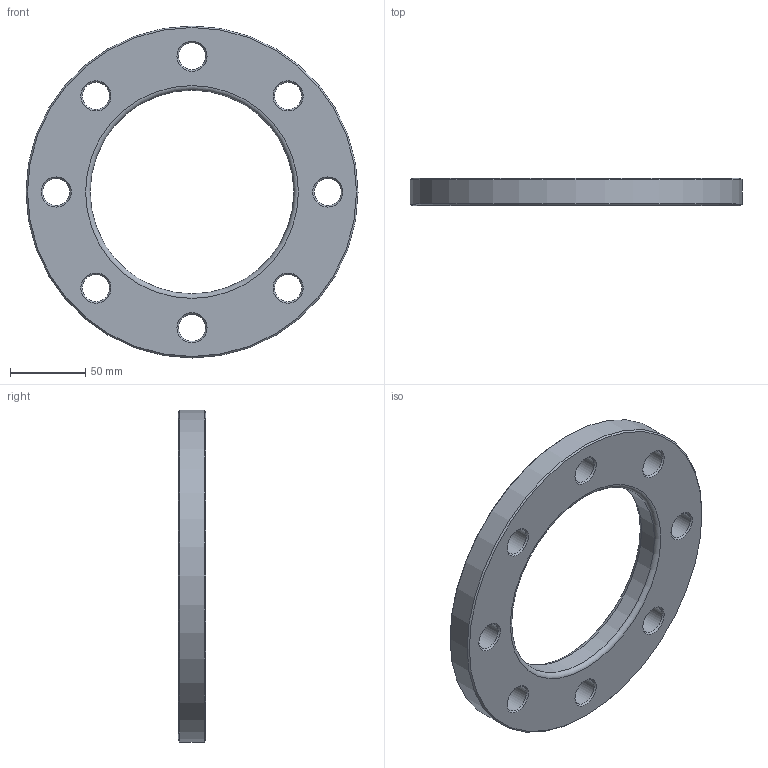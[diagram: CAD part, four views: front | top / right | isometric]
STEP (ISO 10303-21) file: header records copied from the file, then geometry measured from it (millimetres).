
FILE_DESCRIPTION(/* description */ ('Unknown'),/* implementation_level */ '2;1');
FILE_NAME(/* name */ 'FZ125C',/* time_stamp */ '2021-03-15T11:54:41+01:00',/* author */ ('Unknown'),/* organization */ ('Unknown'),/* preprocessor_version */ 'ST-DEVELOPER v16.7',/* originating_system */ 'Solid Edge',/* authorisation */ 'Unknown');
FILE_SCHEMA (('AUTOMOTIVE_DESIGN {1 0 10303 214 3 1 1}'));
Length unit declared in the file: millimetre
Products named in the file (1): FZ125C
Bounding box: 220 x 18 x 220 mm (x, y, z)
Volume: 387132.7 mm3; surface area: 69139.4 mm2
Topology: 1 solids, 1 shells, 32 faces, 94 edges, 64 vertices
Faces by surface type: cone 18, cylinder 10, plane 2, torus 2
Full cylindrical faces by diameter (mm): 18 x8, 135 x1, 220 x1
Entity records: 790 total; most frequent: DIRECTION 146, CARTESIAN_POINT 113, ORIENTED_EDGE 80, EDGE_LOOP 80, FACE_BOUND 80, AXIS2_PLACEMENT_3D 73, EDGE_CURVE 40, VERTEX_POINT 40
